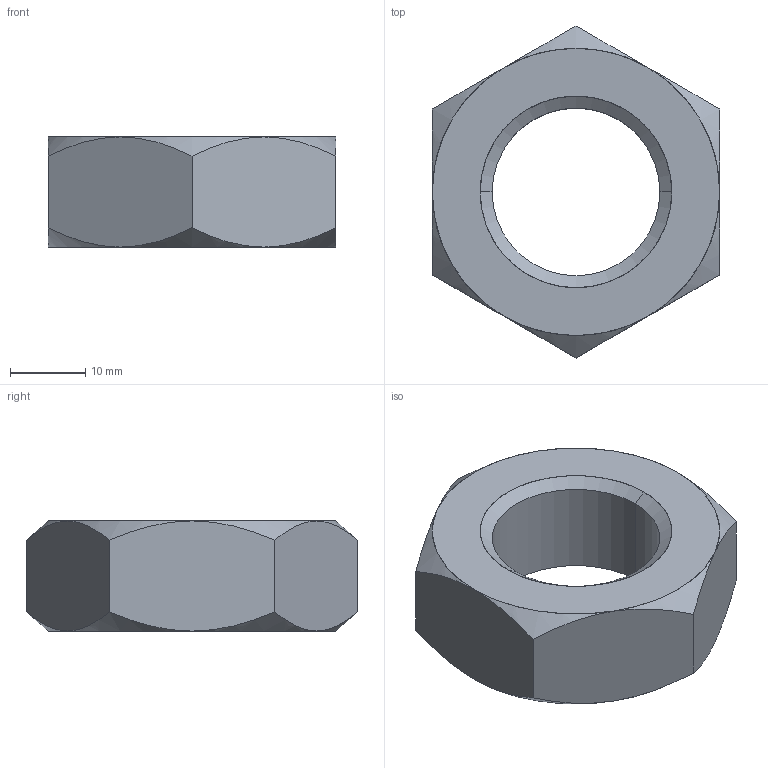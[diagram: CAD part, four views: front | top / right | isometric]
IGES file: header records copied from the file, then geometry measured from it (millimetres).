
Start section: SolidWorks IGES file using analytic representation for surfaces
Global section: file name: D:\TECH DESIGN HUT\NUT\NUT.IGS; native system: SolidWorks 2018; preprocessor: SolidWorks 2018; author: Pankaj; date: 200612.190519; units: inch
Bounding box: 38.1 x 43.99 x 14.61 mm (x, y, z)
Surface area: 4428.1 mm2 (no closed solid volume)
Topology: 0 solids, 0 shells, 28 faces, 408 edges, 408 vertices
Faces by surface type: revolution 20, bspline 8
